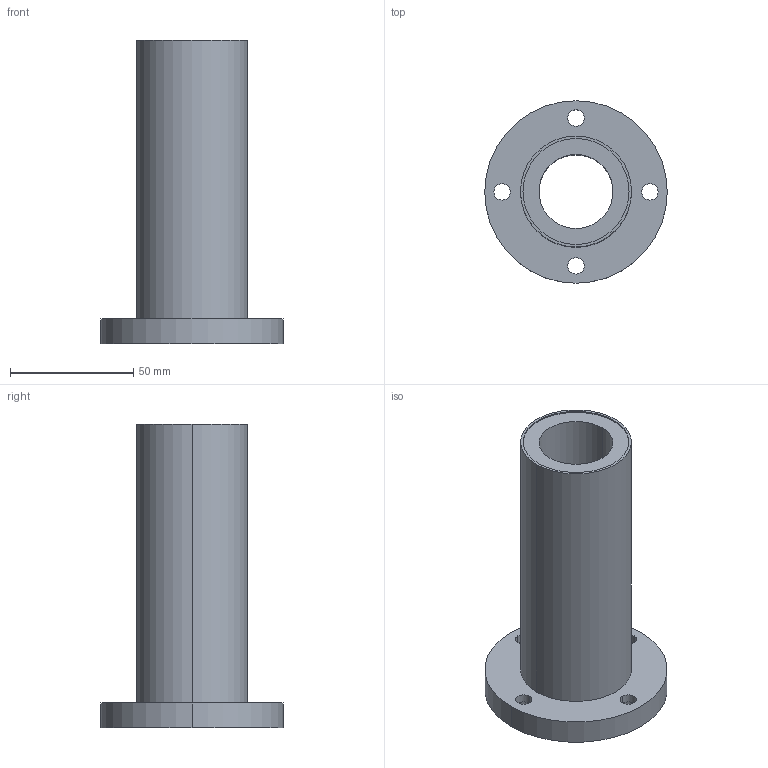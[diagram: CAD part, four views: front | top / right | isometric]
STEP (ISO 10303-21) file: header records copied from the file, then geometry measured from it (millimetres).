
FILE_DESCRIPTION((''),'2;1');
FILE_NAME('C:\Documents and Settings\ｿﾀﾀ蠑ｷ1\ｹﾙﾅﾁ ﾈｭｸ饅\ｺﾎﾇｰﾆﾄﾀﾏ\ﾁｦﾇｰ\LMF__LUU\LMF30LUU.stp','2005-06-15T09:43:29',('ｿﾀﾀ蠑ｷ1'),(''),'Autodesk Inventor 9','Autodesk Inventor 9','');
FILE_SCHEMA(('AUTOMOTIVE_DESIGN { 1 0 10303 214 1 1 1 1 }'));
Length unit declared in the file: millimetre
Products named in the file (1): LMF__
Bounding box: 74 x 74 x 123 mm (x, y, z)
Volume: 131972.4 mm3; surface area: 38042.1 mm2
Topology: 1 solids, 1 shells, 38 faces, 84 edges, 56 vertices
Faces by surface type: cylinder 28, plane 10
Entity records: 1127 total; most frequent: DIRECTION 218, CARTESIAN_POINT 179, ORIENTED_EDGE 168, AXIS2_PLACEMENT_3D 95, EDGE_CURVE 84, VERTEX_POINT 56, CIRCLE 56, EDGE_LOOP 56
